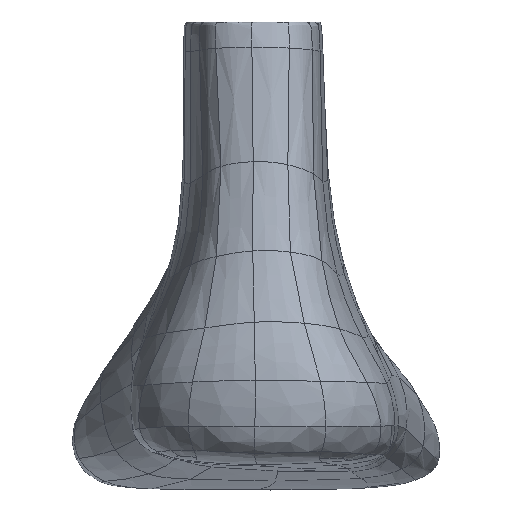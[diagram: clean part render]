
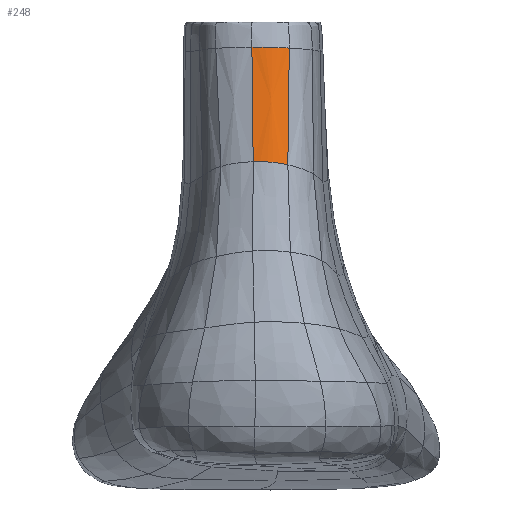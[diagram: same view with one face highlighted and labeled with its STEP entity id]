
A CAD part, left-side view. The second image highlights one B-rep face of the part: STEP entity #248.
In plain terms, the highlighted free-form (B-spline) face has degree [3, 3] with [5, 5] control points.
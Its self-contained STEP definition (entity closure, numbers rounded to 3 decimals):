
#248=ADVANCED_FACE('',(#924),#8672,.T.);
#924=FACE_OUTER_BOUND('',#1600,.T.);
#1600=EDGE_LOOP('',(#3002,#3003,#3004,#3005));
#3002=ORIENTED_EDGE('',*,*,#5285,.F.);
#3003=ORIENTED_EDGE('',*,*,#5286,.F.);
#3004=ORIENTED_EDGE('',*,*,#5338,.T.);
#3005=ORIENTED_EDGE('',*,*,#5292,.T.);
#5285=EDGE_CURVE('',#7825,#7828,#6682,.T.);
#5286=EDGE_CURVE('',#7850,#7825,#6683,.T.);
#5292=EDGE_CURVE('',#7851,#7828,#6689,.T.);
#5338=EDGE_CURVE('',#7850,#7851,#6735,.T.);
#6682=B_SPLINE_CURVE_WITH_KNOTS('',3,(#39209,#39210,#39211,#39212,#39213),
 .UNSPECIFIED.,.F.,.F.,(4,1,4),(-2.,-1.,0.),.UNSPECIFIED.);
#6683=B_SPLINE_CURVE_WITH_KNOTS('',3,(#39214,#39215,#39216,#39217,#39218),
 .UNSPECIFIED.,.F.,.F.,(4,1,4),(-2.,-1.,0.),.UNSPECIFIED.);
#6689=B_SPLINE_CURVE_WITH_KNOTS('',3,(#39248,#39249,#39250,#39251,#39252),
 .UNSPECIFIED.,.F.,.F.,(4,1,4),(-2.,-1.,0.),.UNSPECIFIED.);
#6735=B_SPLINE_CURVE_WITH_KNOTS('',3,(#39524,#39525,#39526,#39527,#39528),
 .UNSPECIFIED.,.F.,.F.,(4,1,4),(-2.,-1.,0.),.UNSPECIFIED.);
#7825=VERTEX_POINT('',#35892);
#7828=VERTEX_POINT('',#35895);
#7850=VERTEX_POINT('',#35917);
#7851=VERTEX_POINT('',#35918);
#8672=B_SPLINE_SURFACE_WITH_KNOTS('',3,3,((#18812,#18813,#18814,#18815,
#18816),(#18817,#18818,#18819,#18820,#18821),(#18822,#18823,#18824,#18825,
#18826),(#18827,#18828,#18829,#18830,#18831),(#18832,#18833,#18834,#18835,
#18836)),.UNSPECIFIED.,.F.,.F.,.F.,(4,1,4),(4,1,4),(0.,1.,2.),(0.,1.,2.),
 .UNSPECIFIED.);
#18812=CARTESIAN_POINT('',(17.968,0.925,126.321));
#18813=CARTESIAN_POINT('',(17.748,-1.003,126.327));
#18814=CARTESIAN_POINT('',(17.757,-4.831,126.3));
#18815=CARTESIAN_POINT('',(18.89,-8.238,126.187));
#18816=CARTESIAN_POINT('',(19.793,-9.746,126.109));
#18817=CARTESIAN_POINT('',(17.42,0.877,122.7));
#18818=CARTESIAN_POINT('',(17.2,-1.028,122.71));
#18819=CARTESIAN_POINT('',(17.2,-4.818,122.668));
#18820=CARTESIAN_POINT('',(18.308,-8.214,122.499));
#18821=CARTESIAN_POINT('',(19.193,-9.725,122.382));
#18822=CARTESIAN_POINT('',(15.968,0.71,111.838));
#18823=CARTESIAN_POINT('',(15.749,-1.106,111.858));
#18824=CARTESIAN_POINT('',(15.724,-4.748,111.774));
#18825=CARTESIAN_POINT('',(16.743,-8.076,111.436));
#18826=CARTESIAN_POINT('',(17.568,-9.579,111.203));
#18827=CARTESIAN_POINT('',(14.172,0.578,99.132));
#18828=CARTESIAN_POINT('',(13.949,-1.15,99.17));
#18829=CARTESIAN_POINT('',(13.878,-4.628,99.066));
#18830=CARTESIAN_POINT('',(14.791,-7.889,98.599));
#18831=CARTESIAN_POINT('',(15.551,-9.398,98.274));
#18832=CARTESIAN_POINT('',(13.281,0.564,93.667));
#18833=CARTESIAN_POINT('',(13.053,-1.14,93.716));
#18834=CARTESIAN_POINT('',(12.953,-4.566,93.62));
#18835=CARTESIAN_POINT('',(13.821,-7.816,93.136));
#18836=CARTESIAN_POINT('',(14.561,-9.343,92.799));
#35892=CARTESIAN_POINT('',(13.281,0.564,93.667));
#35895=CARTESIAN_POINT('',(17.968,0.925,126.321));
#35917=CARTESIAN_POINT('',(14.561,-9.343,92.799));
#35918=CARTESIAN_POINT('',(19.793,-9.746,126.109));
#39209=CARTESIAN_POINT('',(13.281,0.564,93.667));
#39210=CARTESIAN_POINT('',(14.172,0.578,99.132));
#39211=CARTESIAN_POINT('',(15.968,0.71,111.838));
#39212=CARTESIAN_POINT('',(17.42,0.877,122.7));
#39213=CARTESIAN_POINT('',(17.968,0.925,126.321));
#39214=CARTESIAN_POINT('',(14.561,-9.343,92.799));
#39215=CARTESIAN_POINT('',(13.821,-7.816,93.136));
#39216=CARTESIAN_POINT('',(12.953,-4.566,93.62));
#39217=CARTESIAN_POINT('',(13.053,-1.14,93.716));
#39218=CARTESIAN_POINT('',(13.281,0.564,93.667));
#39248=CARTESIAN_POINT('',(19.793,-9.746,126.109));
#39249=CARTESIAN_POINT('',(18.89,-8.238,126.187));
#39250=CARTESIAN_POINT('',(17.757,-4.831,126.3));
#39251=CARTESIAN_POINT('',(17.748,-1.003,126.327));
#39252=CARTESIAN_POINT('',(17.968,0.925,126.321));
#39524=CARTESIAN_POINT('',(14.561,-9.343,92.799));
#39525=CARTESIAN_POINT('',(15.551,-9.398,98.274));
#39526=CARTESIAN_POINT('',(17.568,-9.579,111.203));
#39527=CARTESIAN_POINT('',(19.193,-9.725,122.382));
#39528=CARTESIAN_POINT('',(19.793,-9.746,126.109));
